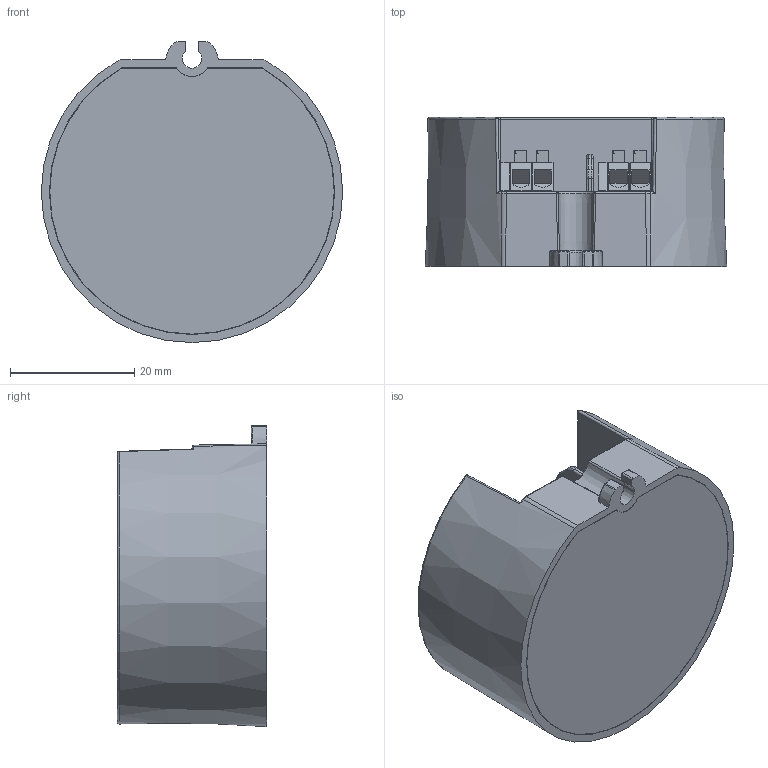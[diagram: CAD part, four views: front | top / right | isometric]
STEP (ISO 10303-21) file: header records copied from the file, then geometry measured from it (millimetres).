
FILE_DESCRIPTION((''),'2;1');
FILE_NAME('KT-159_ASM','2025-11-25T13:17:39',('Administrator'),(''),'CREO PARAMETRIC BY PTC INC, 2022484','CREO PARAMETRIC BY PTC INC, 2022484','');
FILE_SCHEMA(('CONFIG_CONTROL_DESIGN','SHAPE_APPEARANCE_LAYERS_GROUPS'));
Products named in the file (6): KT-159_SG; KT-159_XG; KT-159_PCB; WAFO_250_2P; BM_1; KT-159_ASM
Assembly tree (6 placements, depth 2):
  KT-159_ASM
    KT-159_SG
    KT-159_XG
    KT-159_PCB
    WAFO_250_2P  x2
    BM_1
Bounding box: 48.5 x 24 x 48.46 mm (x, y, z)
Volume: 13060.5 mm3; surface area: 21070 mm2
Topology: 8 solids, 8 shells, 3122 faces, 8678 edges, 5743 vertices
Faces by surface type: plane 2939, extrusion 62, cylinder 52, cone 30, bspline 26, torus 9, sphere 4
Entity records: 121007 total; most frequent: CARTESIAN_POINT 19092, ORIENTED_EDGE 16926, DIRECTION 14360, EDGE_CURVE 8463, VECTOR 8090, LINE 8028, PRESENTATION_STYLE_ASSIGNMENT 8014, STYLED_ITEM 8011
